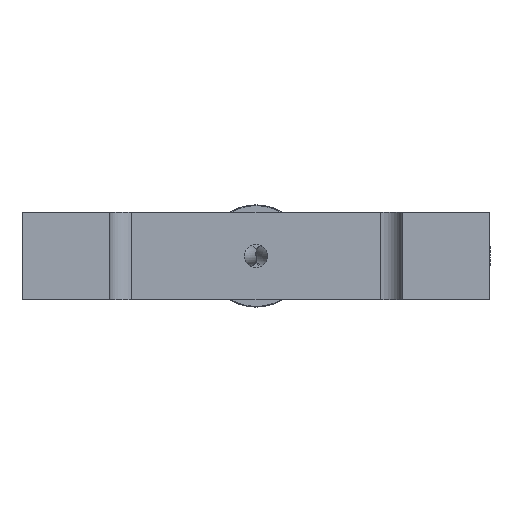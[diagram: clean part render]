
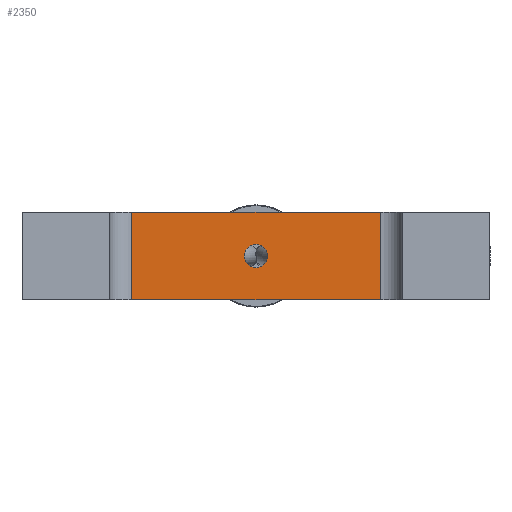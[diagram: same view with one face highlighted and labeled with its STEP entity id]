
A CAD part, left-side view. The second image highlights one B-rep face of the part: STEP entity #2350.
In plain terms, the highlighted planar face has unit normal (-1, 0, 0).
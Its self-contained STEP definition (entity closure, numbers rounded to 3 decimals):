
#112=LINE($,#4257,#200);
#114=LINE($,#4263,#202);
#115=LINE($,#4265,#203);
#116=LINE($,#4266,#204);
#200=VECTOR($,#3333,12.);
#202=VECTOR($,#3339,34.);
#203=VECTOR($,#3340,12.);
#204=VECTOR($,#3341,34.);
#307=PLANE($,#2666);
#402=FACE_BOUND($,#790,.T.);
#403=FACE_BOUND($,#791,.T.);
#790=EDGE_LOOP($,(#1908));
#791=EDGE_LOOP($,(#1909,#1910,#1911,#1912));
#958=CIRCLE($,#2655,1.6);
#1146=VERTEX_POINT($,#4238);
#1153=VERTEX_POINT($,#4254);
#1154=VERTEX_POINT($,#4256);
#1156=VERTEX_POINT($,#4262);
#1157=VERTEX_POINT($,#4264);
#1404=EDGE_CURVE($,#1146,#1146,#958,.T.);
#1411=EDGE_CURVE($,#1153,#1154,#112,.T.);
#1414=EDGE_CURVE($,#1153,#1156,#114,.T.);
#1415=EDGE_CURVE($,#1157,#1156,#115,.T.);
#1416=EDGE_CURVE($,#1157,#1154,#116,.T.);
#1908=ORIENTED_EDGE($,*,*,#1404,.T.);
#1909=ORIENTED_EDGE($,*,*,#1411,.F.);
#1910=ORIENTED_EDGE($,*,*,#1414,.T.);
#1911=ORIENTED_EDGE($,*,*,#1415,.F.);
#1912=ORIENTED_EDGE($,*,*,#1416,.T.);
#2350=ADVANCED_FACE($,(#402,#403),#307,.T.);
#2655=AXIS2_PLACEMENT_3D($,#4239,#3313,#3314);
#2666=AXIS2_PLACEMENT_3D($,#4261,#3337,#3338);
#3313=DIRECTION('center_axis',(1.,0.,0.));
#3314=DIRECTION('ref_axis',(0.,0.,-1.));
#3333=DIRECTION($,(0.,0.,1.));
#3337=DIRECTION('center_axis',(-1.,0.,0.));
#3338=DIRECTION('ref_axis',(0.,0.,1.));
#3339=DIRECTION($,(0.,-1.,0.));
#3340=DIRECTION($,(0.,0.,-1.));
#3341=DIRECTION($,(0.,1.,0.));
#4238=CARTESIAN_POINT('',(37.,0.,7.6));
#4239=CARTESIAN_POINT('Origin',(37.,0.,6.));
#4254=CARTESIAN_POINT('',(37.,17.,0.));
#4256=CARTESIAN_POINT('',(37.,17.,12.));
#4257=CARTESIAN_POINT($,(37.,17.,0.));
#4261=CARTESIAN_POINT('Origin',(37.,-20.,0.));
#4262=CARTESIAN_POINT('',(37.,-17.,0.));
#4263=CARTESIAN_POINT($,(37.,20.,0.));
#4264=CARTESIAN_POINT('',(37.,-17.,12.));
#4265=CARTESIAN_POINT($,(37.,-17.,0.));
#4266=CARTESIAN_POINT($,(37.,20.,12.));
